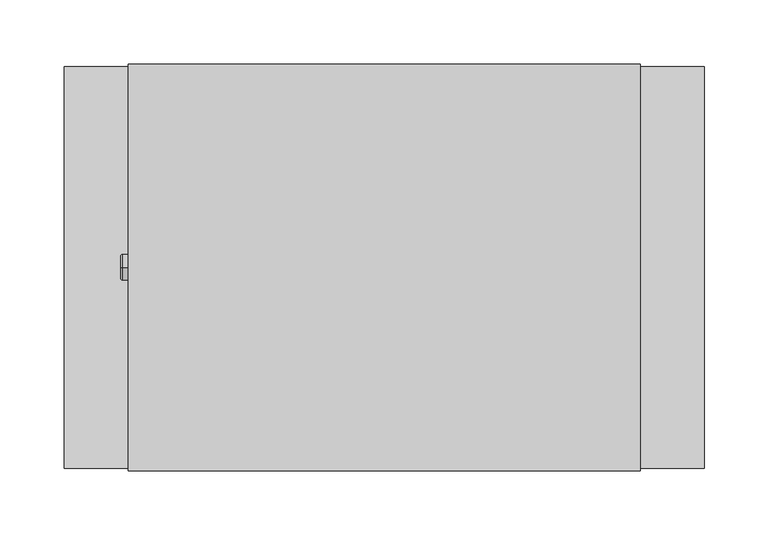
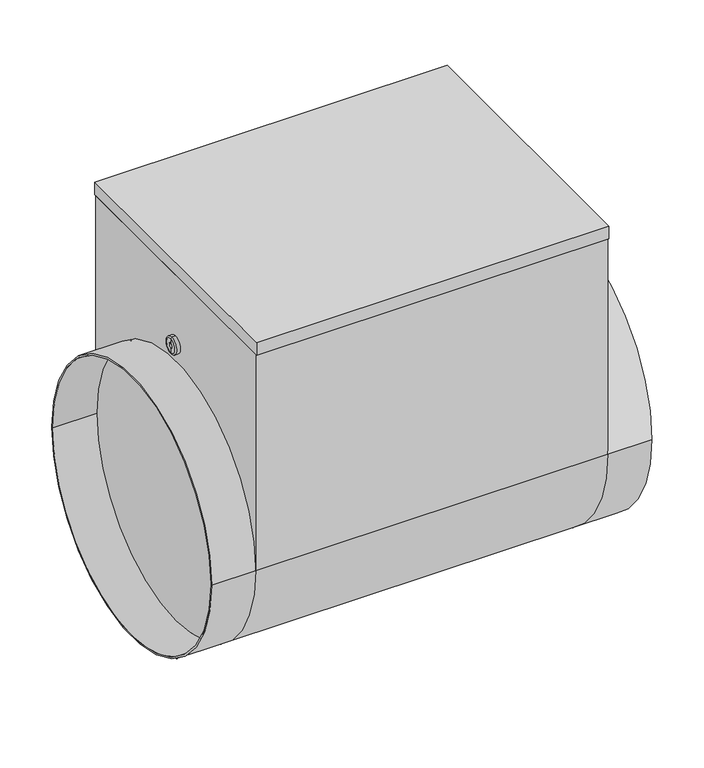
"""IFC4 building model written with IfcOpenShell, lengths in millimetres: proxy geometry, СВ_ВоздухонагревательЭлектрический_КанальныйКруглый_DN100-315_SKH-E : SKH-E-315/15."""

import ifcopenshell
import ifcopenshell.guid

model = None  # the IFC model being written
_history = None  # IfcOwnerHistory: only IFC2X3 demands one
_inside = {}  # id of a spatial element -> (the spatial element, [elements in it])
_under = {}  # id of a project, library or spatial element -> (it, [spatial elements below it])
_declared = {}  # id of a project -> (the project, [libraries it declares])
_typed = {}  # id of a type object -> (the type object, [elements of that type])
_made_of = {}  # id of a material, layer set ... -> (it, [elements and type objects made of it])


def new_model(schema):
    """Start an empty IFC model of exactly this schema.

    Asked for "IFC4X3", IfcOpenShell would pick the latest addendum, in which some entities
    have other attributes; the version numbers below select the first issue.
    IFC2X3 requires an IfcOwnerHistory on every rooted entity: one is made here for all.
    """
    global model, _history
    if schema == "IFC4X3":
        model = ifcopenshell.file(schema_version=(4, 3, 0, 0))
    else:
        model = ifcopenshell.file(schema=schema)
    _inside.clear()
    _under.clear()
    _declared.clear()
    _typed.clear()
    _made_of.clear()
    _history = None
    if model.schema == "IFC2X3":
        org = make("IfcOrganization", Name="unknown")
        user = make(
            "IfcPersonAndOrganization",
            ThePerson=make("IfcPerson", FamilyName="unknown"),
            TheOrganization=org,
        )
        app = make(
            "IfcApplication",
            ApplicationDeveloper=org,
            Version="unknown",
            ApplicationFullName="unknown",
            ApplicationIdentifier="unknown",
        )
        _history = make(
            "IfcOwnerHistory",
            OwningUser=user,
            OwningApplication=app,
            ChangeAction="ADDED",
            CreationDate=0,
        )
    return model


def make(cls, **values):
    """One entity of the class cls with the attributes given. An attribute that is None is left unset."""
    return model.create_entity(
        cls, **{name: value for name, value in values.items() if value is not None}
    )


def rooted(cls, **values):
    """An entity with a GlobalId (a new one), such as an element, a storey or a relation."""
    return make(cls, GlobalId=ifcopenshell.guid.new(), OwnerHistory=_history, **values)


def si_unit(unit_type, name, prefix=None):
    """IfcSIUnit, for example si_unit("LENGTHUNIT", "METRE", prefix="MILLI")."""
    return make("IfcSIUnit", UnitType=unit_type, Prefix=prefix, Name=name)


def assignment(units):
    """IfcUnitAssignment: the units of a project."""
    return None if units is None else make("IfcUnitAssignment", Units=units)


def point(xyz):
    """IfcCartesianPoint."""
    return None if xyz is None else make("IfcCartesianPoint", Coordinates=xyz)


def direction(xyz):
    """IfcDirection."""
    return None if xyz is None else make("IfcDirection", DirectionRatios=xyz)


def frame(location, z_axis=None, x_axis=None):
    """IfcAxis2Placement3D, a coordinate frame: its origin and axes. An axis left out is left unset."""
    return make(
        "IfcAxis2Placement3D",
        Location=point(location),
        Axis=direction(z_axis),
        RefDirection=direction(x_axis),
    )


def origin():
    """The frame at (0, 0, 0) with its axes left unset."""
    return frame((0.0, 0.0, 0.0))


def place(relative_to, where):
    """IfcLocalPlacement: puts the frame where relative to a parent placement (None: the world)."""
    return make(
        "IfcLocalPlacement", PlacementRelTo=relative_to, RelativePlacement=where
    )


def context(
    kind, dimensions, precision=None, world=None, true_north=None, identifier=None
):
    """IfcGeometricRepresentationContext, for example the 3D "Model" context."""
    return make(
        "IfcGeometricRepresentationContext",
        ContextIdentifier=identifier,
        ContextType=kind,
        CoordinateSpaceDimension=dimensions,
        Precision=precision,
        WorldCoordinateSystem=world,
        TrueNorth=true_north,
    )


def project(units=None, contexts=None):
    """IfcProject with its units and contexts."""
    return rooted(
        "IfcProject",
        Name="project",
        RepresentationContexts=contexts,
        UnitsInContext=assignment(units),
    )


def spatial(cls, under=None, at=None, **own):
    """A site, building, storey or space (cls), placed at a placement, below another one or the project."""
    s = rooted(cls, ObjectPlacement=at, **own)
    if under is not None:
        _under.setdefault(under.id(), (under, []))[1].append(s)
    return s


def polyline(points):
    """IfcPolyline through the points."""
    return make("IfcPolyline", Points=[point(p) for p in points])


def circle_curve(where, radius):
    """IfcCircle in the frame where."""
    return make("IfcCircle", Position=where, Radius=radius)


def ellipse_curve(where, semi_axis1, semi_axis2):
    """IfcEllipse in the frame where."""
    return make(
        "IfcEllipse", Position=where, SemiAxis1=semi_axis1, SemiAxis2=semi_axis2
    )


def trimmed(basis, trim1, trim2, sense, master):
    """IfcTrimmedCurve: the piece of a basis curve between two trims."""
    return make(
        "IfcTrimmedCurve",
        BasisCurve=basis,
        Trim1=trim1,
        Trim2=trim2,
        SenseAgreement=sense,
        MasterRepresentation=master,
    )


def outline(outer, holes=None, kind="AREA"):
    """IfcArbitraryClosedProfileDef: a profile drawn as a closed curve; with holes, ...WithVoids."""
    if holes is None:
        return make("IfcArbitraryClosedProfileDef", ProfileType=kind, OuterCurve=outer)
    return make(
        "IfcArbitraryProfileDefWithVoids",
        ProfileType=kind,
        OuterCurve=outer,
        InnerCurves=holes,
    )


def extrude(swept, where, along, depth):
    """IfcExtrudedAreaSolid: the profile swept, set in the frame where, extruded along a direction by depth."""
    return make(
        "IfcExtrudedAreaSolid",
        SweptArea=swept,
        Position=where,
        ExtrudedDirection=direction(along),
        Depth=depth,
    )


def shape(context_of_items, identifier, shape_type, items):
    """IfcShapeRepresentation: the items that make up one representation, for example the "Body"."""
    return make(
        "IfcShapeRepresentation",
        ContextOfItems=context_of_items,
        RepresentationIdentifier=identifier,
        RepresentationType=shape_type,
        Items=items,
    )


def source(mapping_origin, context_of_items, identifier, shape_type, items):
    """IfcRepresentationMap: a shape defined once, which mapped items show again and again."""
    return make(
        "IfcRepresentationMap",
        MappingOrigin=mapping_origin,
        MappedRepresentation=shape(context_of_items, identifier, shape_type, items),
    )


def transform(
    local_origin,
    x_axis=None,
    y_axis=None,
    z_axis=None,
    scale=None,
    scale2=None,
    scale3=None,
    uniform=True,
):
    """IfcCartesianTransformationOperator3D, or its non-uniform kind. x_axis, y_axis, z_axis: its Axis1, 2, 3."""
    if uniform:
        return make(
            "IfcCartesianTransformationOperator3D",
            Axis1=direction(x_axis),
            Axis2=direction(y_axis),
            LocalOrigin=point(local_origin),
            Scale=scale,
            Axis3=direction(z_axis),
        )
    return make(
        "IfcCartesianTransformationOperator3DnonUniform",
        Axis1=direction(x_axis),
        Axis2=direction(y_axis),
        LocalOrigin=point(local_origin),
        Scale=scale,
        Axis3=direction(z_axis),
        Scale2=scale2,
        Scale3=scale3,
    )


def mapped(mapping_source, mapping_target):
    """IfcMappedItem: shows the shape of a source again, moved by a transform."""
    return make(
        "IfcMappedItem", MappingSource=mapping_source, MappingTarget=mapping_target
    )


def made_of(thing, what):
    """Note that an element or type object is made of a material, layer set ...; save() writes the relation."""
    if what is not None:
        _made_of.setdefault(what.id(), (what, []))[1].append(thing)
    return thing


def element(
    cls,
    number,
    at=None,
    inside=None,
    cuts=None,
    type_object=None,
    material=None,
    context=None,
    identifier="Body",
    shape_type=None,
    held_by="IfcProductDefinitionShape",
    body=None,
    shapes=None,
    **own,
):
    """One element of the class cls, such as IfcWall. Its Tag is "e" and its number.

    at: its placement. inside: the storey or other place that contains it. cuts: it is an
    opening in that element (IfcRelVoidsElement). A single representation is given by context,
    identifier, shape_type and body (its items); several are given by shapes. held_by: the class
    of the entity that holds the representations. save() writes the other relations.
    """
    e = rooted(cls, Tag="e%d" % number, ObjectPlacement=at, **own)
    if body is not None:
        shapes = [shape(context, identifier, shape_type, body)]
    if shapes is not None:
        e.Representation = make(held_by, Representations=shapes)
    if inside is not None:
        _inside.setdefault(inside.id(), (inside, []))[1].append(e)
    if cuts is not None:
        rooted(
            "IfcRelVoidsElement", RelatingBuildingElement=cuts, RelatedOpeningElement=e
        )
    if type_object is not None:
        _typed.setdefault(type_object.id(), (type_object, []))[1].append(e)
    return made_of(e, material)


def aggregate(whole, parts):
    """IfcRelAggregates: a whole, such as a stair, and the parts it consists of."""
    return rooted("IfcRelAggregates", RelatingObject=whole, RelatedObjects=parts)


def save(model, path):
    """Write the relations noted so far, then the file.

    IfcRelAggregates (storeys below a building ...), IfcRelContainedInSpatialStructure (elements
    in a storey), IfcRelDefinesByType, IfcRelAssociatesMaterial and IfcRelDeclares: one each for
    every whole, place, type object, material and project.
    """
    for whole, parts in _under.values():
        aggregate(whole, parts)
    for where, things in _inside.values():
        rooted(
            "IfcRelContainedInSpatialStructure",
            RelatedElements=things,
            RelatingStructure=where,
        )
    for kind, things in _typed.values():
        rooted("IfcRelDefinesByType", RelatedObjects=things, RelatingType=kind)
    for what, things in _made_of.values():
        rooted("IfcRelAssociatesMaterial", RelatedObjects=things, RelatingMaterial=what)
    for by, libraries in _declared.values():
        rooted("IfcRelDeclares", RelatingContext=by, RelatedDefinitions=libraries)
    model.write(path)


def plane_surface(at):
    """IfcPlane: the flat surface through the origin of the frame at, square to its z axis."""
    return make("IfcPlane", Position=at)


def cylinder_surface(at, radius):
    """IfcCylindricalSurface: all points at the distance radius from the z axis of the frame at."""
    return make("IfcCylindricalSurface", Position=at, Radius=radius)


def revolved_surface(curve, axis_point, axis_direction):
    """IfcSurfaceOfRevolution: the curve turned about the line through axis_point along axis_direction."""
    return make(
        "IfcSurfaceOfRevolution",
        SweptCurve=make("IfcArbitraryOpenProfileDef", ProfileType="CURVE", Curve=curve),
        AxisPosition=make("IfcAxis1Placement", Location=point(axis_point), Axis=direction(axis_direction)),
    )


def advanced_brep(points, edges, surfaces, faces):
    """IfcAdvancedBrep: a solid bounded by faces that lie on surfaces and meet in shared edges.

    An edge is (start, end): straight between two places in points (the first is 0);
    or (start, end, curve); or (start, end, curve, False) where it runs against its curve.
    A face is (place in surfaces, loops), or (place, loops, False) where it looks against
    its surface's normal. A loop lists edges by number (the first is 1), with a minus sign
    where the edge is run from its end to its start. The first loop is the outer one.
    """
    corners = [point(p) for p in points]
    vertices = [make("IfcVertexPoint", VertexGeometry=c) for c in corners]
    made = []
    for start, end, *more in edges:
        made.append(
            make(
                "IfcEdgeCurve",
                EdgeStart=vertices[start],
                EdgeEnd=vertices[end],
                EdgeGeometry=more[0] if more else make("IfcPolyline", Points=[corners[start], corners[end]]),
                SameSense=more[1] if len(more) > 1 else True,
            )
        )
    hull = []
    for where, loops, *sense in faces:
        bounds = []
        for j, loop in enumerate(loops):
            ring = [make("IfcOrientedEdge", EdgeElement=made[abs(k) - 1], Orientation=k > 0) for k in loop]
            bounds.append(
                make(
                    "IfcFaceOuterBound" if j == 0 else "IfcFaceBound",
                    Bound=make("IfcEdgeLoop", EdgeList=ring),
                    Orientation=True,
                )
            )
        hull.append(make("IfcAdvancedFace", Bounds=bounds, FaceSurface=surfaces[where], SameSense=sense[0] if sense else True))
    return make("IfcAdvancedBrep", Outer=make("IfcClosedShell", CfsFaces=hull))


def mechanical_equipment_a84493ea(model_context):
    return source(origin(), model_context, "Body", "SolidModel", [
        extrude(outline(polyline([(200.0, -159.0), (-200.0, -159.0), (-200.0, 159.0), (200.0, 159.0), (200.0, -159.0)])), frame((0.0, 0.0, 260.0), z_axis=(0.0, 0.0, 1.0), x_axis=(1.0, 0.0, 0.0)), (0.0, 0.0, 1.0), 15.0),
        advanced_brep(
        [(-250.0, -157.0, 0.0), (-250.0, 157.0, 0.0), (-250.0, -155.0, 0.0), (-250.0, 155.0, 0.0), (-200.0, 155.0, 0.0), (-200.0, -155.0, 0.0), (-200.0, 157.0, 0.0), (-200.0, -157.0, 0.0), (200.0, -155.0, 0.0), (200.0, 155.0, 0.0), (200.0, -157.0, 260.0), (200.0, -157.0, 0.0), (200.0, 157.0, 0.0), (200.0, 157.0, 260.0), (-200.0, -157.0, 260.0), (-200.0, 157.0, 260.0), (250.0, -157.0, 0.0), (250.0, 157.0, 0.0), (250.0, -155.0, 0.0), (250.0, 155.0, 0.0)],
        [
            (0, 1, circle_curve(frame((-250.0, 0.0, 0.0), z_axis=(-1.0, 0.0, 0.0), x_axis=(0.0, 1.0, 0.0)), 157.0)),
            (1, 0, circle_curve(frame((-250.0, 0.0, 0.0), z_axis=(-1.0, 0.0, 0.0), x_axis=(0.0, 1.0, 0.0)), 157.0)),
            (2, 3, circle_curve(frame((-250.0, 0.0, 0.0), z_axis=(1.0, 0.0, 0.0), x_axis=(0.0, 1.0, 0.0)), 155.0)),
            (3, 2, circle_curve(frame((-250.0, 0.0, 0.0), z_axis=(1.0, 0.0, 0.0), x_axis=(0.0, 1.0, 0.0)), 155.0)),
            (3, 4),
            (4, 5, circle_curve(frame((-200.0, 0.0, 0.0), z_axis=(1.0, 0.0, 0.0), x_axis=(0.0, 1.0, 0.0)), 155.0)),
            (5, 2),
            (5, 4, circle_curve(frame((-200.0, 0.0, 0.0), z_axis=(1.0, 0.0, 0.0), x_axis=(0.0, 1.0, 0.0)), 155.0)),
            (1, 6),
            (6, 7, circle_curve(frame((-200.0, 0.0, 0.0), z_axis=(-1.0, 0.0, 0.0), x_axis=(0.0, 1.0, 0.0)), 157.0)),
            (7, 0),
            (7, 6, circle_curve(frame((-200.0, 0.0, 0.0), z_axis=(-1.0, 0.0, 0.0), x_axis=(0.0, 1.0, 0.0)), 157.0)),
            (8, 9, circle_curve(frame((200.0, 0.0, 0.0), z_axis=(1.0, 0.0, 0.0), x_axis=(0.0, 1.0, 0.0)), 155.0)),
            (9, 8, circle_curve(frame((200.0, 0.0, 0.0), z_axis=(1.0, 0.0, 0.0), x_axis=(0.0, 1.0, 0.0)), 155.0)),
            (10, 11),
            (11, 12, circle_curve(frame((200.0, 0.0, 0.0), z_axis=(-1.0, 0.0, 0.0), x_axis=(0.0, 1.0, 0.0)), 157.0)),
            (12, 13),
            (13, 10),
            (7, 14),
            (14, 15),
            (15, 6),
            (6, 12),
            (12, 11, circle_curve(frame((200.0, 0.0, 0.0), z_axis=(-1.0, 0.0, 0.0), x_axis=(0.0, 1.0, 0.0)), 157.0)),
            (11, 7),
            (16, 17, circle_curve(frame((250.0, 0.0, 0.0), z_axis=(1.0, 0.0, 0.0), x_axis=(0.0, 1.0, 0.0)), 157.0)),
            (17, 16, circle_curve(frame((250.0, 0.0, 0.0), z_axis=(1.0, 0.0, 0.0), x_axis=(0.0, 1.0, 0.0)), 157.0)),
            (18, 19, circle_curve(frame((250.0, 0.0, 0.0), z_axis=(-1.0, 0.0, 0.0), x_axis=(0.0, 1.0, 0.0)), 155.0)),
            (19, 18, circle_curve(frame((250.0, 0.0, 0.0), z_axis=(-1.0, 0.0, 0.0), x_axis=(0.0, 1.0, 0.0)), 155.0)),
            (18, 8),
            (9, 19),
            (16, 11),
            (12, 17),
            (10, 14),
            (15, 13),
        ],
        [
            plane_surface(frame((-250.0, 155.0, 0.0), z_axis=(-1.0, 0.0, 0.0), x_axis=(0.0, 0.0, 1.0))),
            revolved_surface(polyline([(-250.0, 155.0, 0.0), (-200.0, 155.0, 0.0)]), (-250.0, 0.0, 0.0), (-1.0, 0.0, 0.0)),
            cylinder_surface(frame((0.0, 0.0, 0.0), z_axis=(1.0, 0.0, 0.0), x_axis=(0.0, 1.0, 0.0)), 157.0),
            plane_surface(frame((200.0, 157.0, 0.0), z_axis=(1.0, 0.0, 0.0), x_axis=(0.0, -1.0, 0.0))),
            plane_surface(frame((-200.0, 157.0, 0.0), z_axis=(-1.0, 0.0, 0.0), x_axis=(0.0, 1.0, 0.0))),
            cylinder_surface(frame((-200.0, 0.0, 0.0), z_axis=(1.0, 0.0, 0.0), x_axis=(0.0, 1.0, 0.0)), 157.0),
            plane_surface(frame((250.0, 155.0, 0.0), z_axis=(1.0, 0.0, 0.0), x_axis=(0.0, 0.0, -1.0))),
            revolved_surface(polyline([(200.0, 155.0, 0.0), (250.0, 155.0, 0.0)]), (200.0, 0.0, 0.0), (-1.0, 0.0, 0.0)),
            plane_surface(frame((-200.0, -157.0, 260.0), z_axis=(0.0, -1.0, 0.0), x_axis=(-1.0, 0.0, 0.0))),
            plane_surface(frame((-200.0, 157.0, 260.0), z_axis=(0.0, 1.0, 0.0), x_axis=(1.0, 0.0, 0.0))),
            plane_surface(frame((200.0, -157.0, 260.0), z_axis=(0.0, 0.0, 1.0), x_axis=(0.0, 1.0, 0.0))),
        ],
        [
            (0, [[1, 2], [3, 4]]),
            (1, [[-4, 5, 6, 7]]),
            (1, [[-3, -7, 8, -5]]),
            (2, [[-2, 9, 10, 11]]),
            (2, [[-1, -11, 12, -9]]),
            (3, [[13, 14]]),
            (3, [[15, 16, 17, 18]]),
            (4, [[-8, -6]]),
            (4, [[19, 20, 21, -12]]),
            (5, [[-10, 22, 23, 24]]),
            (6, [[25, 26], [27, 28]]),
            (7, [[-27, 29, -14, 30]]),
            (7, [[-28, -30, -13, -29]]),
            (2, [[-25, 31, -23, 32]]),
            (2, [[-26, -32, -16, -31]]),
            (8, [[33, -19, -24, -15]]),
            (9, [[-17, -22, -21, 34]]),
            (10, [[-33, -18, -34, -20]]),
        ],
    ),
        advanced_brep(
        [(-204.2840134, 0.0, 167.0), (-204.2840134, 0.0, 187.0), (-200.0, 0.0, 187.0), (-200.0, 0.0, 167.0), (-205.7459771, 0.0, 168.4619637), (-205.7459771, 0.0, 185.5380363), (-205.7459771, 0.0, 173.8948071), (-205.7459771, 0.0, 180.1051929), (-203.4138357, 0.0, 173.8948071), (-203.4138357, 0.0, 180.1051929), (-203.4138357, 0.0, 177.0), (-200.0, 0.0, 177.0)],
        [
            (0, 1, circle_curve(frame((-204.2840134, 0.0, 177.0), z_axis=(1.0, 0.0, 0.0), x_axis=(0.0, 0.0, 1.0)), 10.0)),
            (1, 2),
            (2, 3, circle_curve(frame((-200.0, 0.0, 177.0), z_axis=(-1.0, 0.0, 0.0), x_axis=(0.0, 0.0, 1.0)), 10.0)),
            (3, 0),
            (1, 0, circle_curve(frame((-204.2840134, 0.0, 177.0), z_axis=(1.0, 0.0, 0.0), x_axis=(0.0, 0.0, 1.0)), 10.0)),
            (3, 2, circle_curve(frame((-200.0, 0.0, 177.0), z_axis=(-1.0, 0.0, 0.0), x_axis=(0.0, 0.0, 1.0)), 10.0)),
            (4, 5, circle_curve(frame((-205.7459771, 0.0, 177.0), z_axis=(1.0, 0.0, 0.0), x_axis=(0.0, 0.0, 1.0)), 8.5380363)),
            (5, 1, circle_curve(frame((-204.2840134, 0.0, 185.5380363), z_axis=(0.0, 1.0, 0.0), x_axis=(1.0, 0.0, 0.0)), 1.4619637)),
            (0, 4, circle_curve(frame((-204.2840134, 0.0, 168.4619637), z_axis=(0.0, 1.0, 0.0), x_axis=(1.0, 0.0, 0.0)), 1.4619637)),
            (5, 4, circle_curve(frame((-205.7459771, 0.0, 177.0), z_axis=(1.0, 0.0, 0.0), x_axis=(0.0, 0.0, 1.0)), 8.5380363)),
            (6, 7, circle_curve(frame((-205.7459771, 0.0, 177.0), z_axis=(1.0, 0.0, 0.0), x_axis=(0.0, 0.0, 1.0)), 3.1051929)),
            (7, 5),
            (4, 6),
            (7, 6, circle_curve(frame((-205.7459771, 0.0, 177.0), z_axis=(1.0, 0.0, 0.0), x_axis=(0.0, 0.0, 1.0)), 3.1051929)),
            (8, 9, circle_curve(frame((-203.4138357, 0.0, 177.0), z_axis=(1.0, 0.0, 0.0), x_axis=(0.0, 0.0, 1.0)), 3.1051929)),
            (9, 7),
            (6, 8),
            (9, 8, circle_curve(frame((-203.4138357, 0.0, 177.0), z_axis=(1.0, 0.0, 0.0), x_axis=(0.0, 0.0, 1.0)), 3.1051929)),
            (10, 9),
            (8, 10),
            (2, 11),
            (11, 3),
        ],
        [
            cylinder_surface(frame((-235.6635229, 0.0, 177.0), z_axis=(-1.0, 0.0, 0.0), x_axis=(0.0, 0.0, 1.0)), 10.0),
            revolved_surface(trimmed(ellipse_curve(frame((-204.2840134, 0.0, 185.5380363), z_axis=(0.0, -1.0, 0.0), x_axis=(1.0, 0.0, 0.0)), 1.4619637, 1.4619637), [point((-204.2840134, 0.0, 187.0))], [point((-205.7459771, 0.0, 185.5380363))], True, "CARTESIAN"), (-235.6635229, 0.0, 177.0), (-1.0, 0.0, 0.0)),
            plane_surface(frame((-205.7459771, 0.0, 177.0), z_axis=(-1.0, 0.0, 0.0), x_axis=(0.0, 0.0, 1.0))),
            revolved_surface(polyline([(-205.7459771, 0.0, 180.1051929), (-203.4138357, 0.0, 180.1051929)]), (-235.6635229, 0.0, 177.0), (-1.0, 0.0, 0.0)),
            plane_surface(frame((-203.4138357, 0.0, 177.0), z_axis=(-1.0, 0.0, 0.0), x_axis=(0.0, 0.0, 1.0))),
            plane_surface(frame((-200.0, 0.0, 177.0), z_axis=(1.0, 0.0, 0.0), x_axis=(0.0, 0.0, 1.0))),
        ],
        [
            (0, [[1, 2, 3, 4]]),
            (0, [[5, -4, 6, -2]]),
            (1, [[7, 8, -1, 9]]),
            (1, [[10, -9, -5, -8]]),
            (2, [[11, 12, -7, 13]]),
            (2, [[14, -13, -10, -12]]),
            (3, [[15, 16, -11, 17]]),
            (3, [[18, -17, -14, -16]]),
            (4, [[19, -15, 20]]),
            (4, [[-20, -18, -19]]),
            (5, [[-3, 21, 22]]),
            (5, [[-6, -22, -21]]),
        ],
    ),
    ])


if __name__ == "__main__":
    model = new_model("IFC4")
    model_context = context("Model", 3, world=origin())
    ifc_project = project(units=[si_unit("LENGTHUNIT", "METRE", prefix="MILLI")], contexts=[model_context])
    site = spatial("IfcSite", under=ifc_project)
    building = spatial("IfcBuilding", under=site)
    placement = place(None, origin())
    mechanical_equipment_shape = mechanical_equipment_a84493ea(model_context)
    element("IfcBuildingElementProxy", 1, Name="СВ_ВоздухонагревательЭлектрический_КанальныйКруглый_DN100-315_SKH-E : SKH-E-315/15", ObjectType="СВ_ВоздухонагревательЭлектрический_КанальныйКруглый_DN100-315_SKH-E : SKH-E-315/15", at=placement, inside=building, context=model_context, shape_type="MappedRepresentation", body=[
        mapped(mechanical_equipment_shape, transform((0.0, 0.0, 0.0), x_axis=(1.0, 0.0, 0.0), y_axis=(0.0, 1.0, 0.0), z_axis=(0.0, 0.0, 1.0))),
    ])
    save(model, "model.ifc")
